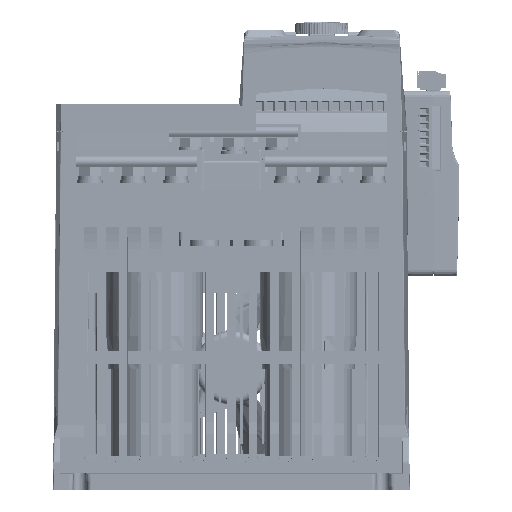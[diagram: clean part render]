
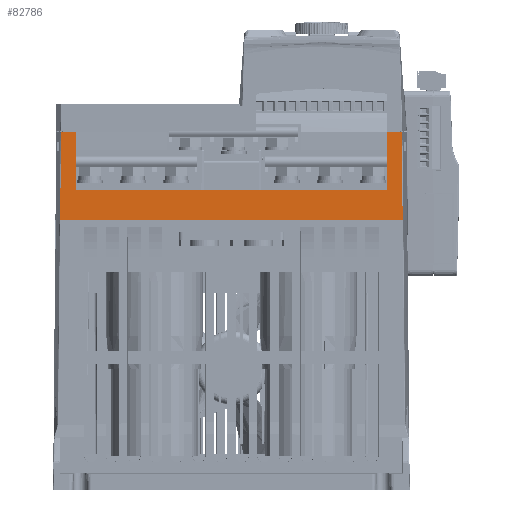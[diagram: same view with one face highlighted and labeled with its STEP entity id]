
A CAD part, front view. The second image highlights one B-rep face of the part: STEP entity #82786.
In plain terms, the highlighted planar face has unit normal (0, -1, 0).
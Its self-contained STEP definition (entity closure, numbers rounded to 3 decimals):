
#47919=FACE_OUTER_BOUND('',#131313,.T.);
#64491=B_SPLINE_CURVE_WITH_KNOTS('',3,(#832921,#832922,#832923,#832924,
#832925,#832926,#832927),.UNSPECIFIED.,.F.,.F.,(4,3,4),(0.,0.5,
1.),.UNSPECIFIED.);
#64566=B_SPLINE_CURVE_WITH_KNOTS('',3,(#833822,#833823,#833824,#833825,
#833826,#833827,#833828),.UNSPECIFIED.,.F.,.F.,(4,3,4),(0.,0.5,
1.),.UNSPECIFIED.);
#82786=ADVANCED_FACE('',(#47919),#103549,.T.);
#103549=PLANE('',#516284);
#131313=EDGE_LOOP('',(#224850,#224851,#224852,#224853,#224854,#224855,#224856,
#224857));
#224850=ORIENTED_EDGE('',*,*,#367986,.T.);
#224851=ORIENTED_EDGE('',*,*,#368040,.F.);
#224852=ORIENTED_EDGE('',*,*,#367896,.T.);
#224853=ORIENTED_EDGE('',*,*,#368041,.T.);
#224854=ORIENTED_EDGE('',*,*,#367888,.F.);
#224855=ORIENTED_EDGE('',*,*,#368042,.T.);
#224856=ORIENTED_EDGE('',*,*,#368036,.T.);
#224857=ORIENTED_EDGE('',*,*,#367674,.T.);
#308232=VERTEX_POINT('',#831618);
#308233=VERTEX_POINT('',#831620);
#308388=VERTEX_POINT('',#832870);
#308389=VERTEX_POINT('',#832872);
#308393=VERTEX_POINT('',#832928);
#308394=VERTEX_POINT('',#832929);
#308461=VERTEX_POINT('',#833821);
#308500=VERTEX_POINT('',#834348);
#367674=EDGE_CURVE('',#308233,#308232,#424676,.T.);
#367888=EDGE_CURVE('',#308388,#308389,#424775,.T.);
#367896=EDGE_CURVE('',#308393,#308394,#64491,.T.);
#367986=EDGE_CURVE('',#308232,#308461,#64566,.T.);
#368036=EDGE_CURVE('',#308500,#308233,#424796,.T.);
#368040=EDGE_CURVE('',#308393,#308461,#424800,.T.);
#368041=EDGE_CURVE('',#308394,#308389,#424801,.T.);
#368042=EDGE_CURVE('',#308388,#308500,#424802,.T.);
#424676=LINE('',#831619,#474986);
#424775=LINE('',#832871,#475085);
#424796=LINE('',#834347,#475108);
#424800=LINE('',#834355,#475112);
#424801=LINE('',#834356,#475113);
#424802=LINE('',#834357,#475114);
#474986=VECTOR('',#598515,1.);
#475085=VECTOR('',#598720,1.);
#475108=VECTOR('',#598769,1.);
#475112=VECTOR('',#598777,1.);
#475113=VECTOR('',#598778,1.);
#475114=VECTOR('',#598779,1.);
#516284=AXIS2_PLACEMENT_3D('',#834358,#598780,#598781);
#598515=DIRECTION('',(-1.,0.,0.));
#598720=DIRECTION('',(0.,0.,1.));
#598769=DIRECTION('',(0.,0.,1.));
#598777=DIRECTION('',(-1.,0.,0.));
#598778=DIRECTION('',(-1.,0.,0.));
#598779=DIRECTION('',(-1.,0.,0.));
#598780=DIRECTION('',(0.,-1.,0.));
#598781=DIRECTION('',(1.,0.,0.));
#831618=CARTESIAN_POINT('',(-1019.933,-64.447,-130.871));
#831619=CARTESIAN_POINT('',(-883.313,-64.447,-130.871));
#831620=CARTESIAN_POINT('',(-1013.216,-64.447,-130.871));
#832870=CARTESIAN_POINT('',(-869.11,-64.447,-157.828));
#832871=CARTESIAN_POINT('',(-869.11,-64.447,-130.871));
#832872=CARTESIAN_POINT('',(-869.11,-64.447,-130.871));
#832921=CARTESIAN_POINT('',(-861.995,-64.447,-171.569));
#832922=CARTESIAN_POINT('',(-862.061,-64.447,-164.787));
#832923=CARTESIAN_POINT('',(-862.127,-64.447,-158.005));
#832924=CARTESIAN_POINT('',(-862.194,-64.447,-151.223));
#832925=CARTESIAN_POINT('',(-862.26,-64.447,-144.439));
#832926=CARTESIAN_POINT('',(-862.327,-64.447,-137.655));
#832927=CARTESIAN_POINT('',(-862.393,-64.447,-130.871));
#832928=CARTESIAN_POINT('',(-861.995,-64.447,-171.569));
#832929=CARTESIAN_POINT('',(-862.393,-64.447,-130.871));
#833821=CARTESIAN_POINT('',(-1020.331,-64.447,-171.569));
#833822=CARTESIAN_POINT('',(-1019.933,-64.447,-130.871));
#833823=CARTESIAN_POINT('',(-1019.999,-64.447,-137.655));
#833824=CARTESIAN_POINT('',(-1020.066,-64.447,-144.439));
#833825=CARTESIAN_POINT('',(-1020.132,-64.447,-151.223));
#833826=CARTESIAN_POINT('',(-1020.199,-64.447,-158.005));
#833827=CARTESIAN_POINT('',(-1020.265,-64.447,-164.787));
#833828=CARTESIAN_POINT('',(-1020.331,-64.447,-171.569));
#834347=CARTESIAN_POINT('',(-1013.216,-64.447,-294.885));
#834348=CARTESIAN_POINT('',(-1013.216,-64.447,-157.828));
#834355=CARTESIAN_POINT('',(-874.872,-64.447,-171.569));
#834356=CARTESIAN_POINT('',(-858.73,-64.447,-130.871));
#834357=CARTESIAN_POINT('',(-871.075,-64.447,-157.828));
#834358=CARTESIAN_POINT('',(-871.075,-64.447,-294.885));
